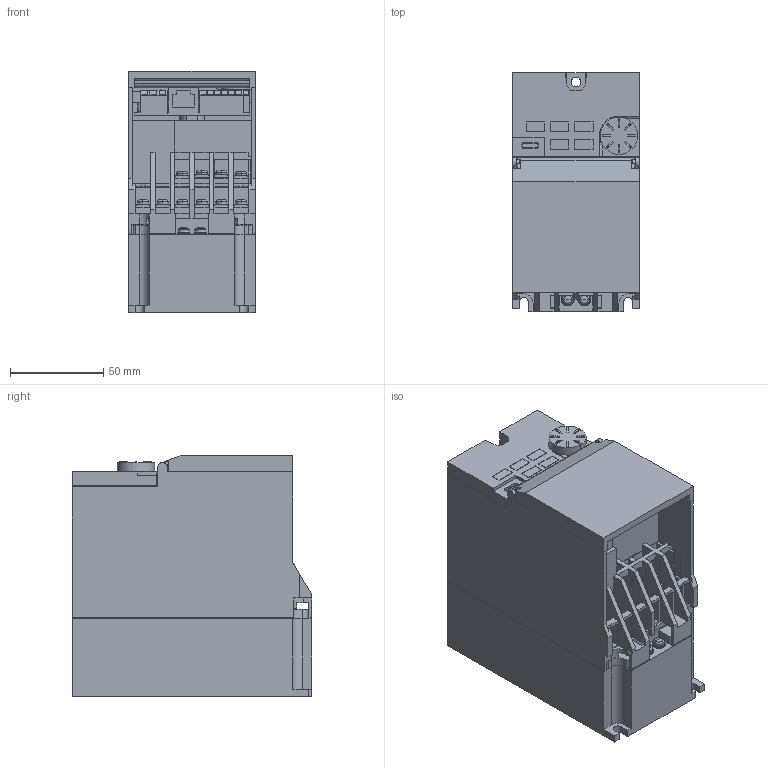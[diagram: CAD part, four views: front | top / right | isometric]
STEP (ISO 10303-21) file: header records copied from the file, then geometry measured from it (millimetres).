
FILE_DESCRIPTION((''),'2;1');
FILE_NAME('3D-INV-52_02_ASM','2024-11-29T10:17:07',('CT89920'),(''),'CREO PARAMETRIC BY PTC INC, 2022281','CREO PARAMETRIC BY PTC INC, 2022281','');
FILE_SCHEMA(('CONFIG_CONTROL_DESIGN','SHAPE_APPEARANCE_LAYERS_GROUPS'));
Length unit declared in the file: millimetre
Products named in the file (7): 3D-BASE-52_02; 3D-TE_SHORT-51_01; 3D-TE_NEJI-M3_5X8-ZA7; 3D-TE-NEJI-51_02_ASM; 3D-SW-PW-P-M3_5X10; 3D-S_COV-D80-0_75; 3D-INV-52_02_ASM
Assembly tree (16 placements, depth 3):
  3D-INV-52_02_ASM
    3D-BASE-52_02
    3D-TE-NEJI-51_02_ASM
      3D-TE_SHORT-51_01
      3D-TE_NEJI-M3_5X8-ZA7  x10
    3D-SW-PW-P-M3_5X10  x2
    3D-S_COV-D80-0_75
Bounding box: 68 x 128 x 129.5 mm (x, y, z)
Volume: 501175.9 mm3; surface area: 156469 mm2
Topology: 15 solids, 15 shells, 915 faces, 2466 edges, 1603 vertices
Faces by surface type: plane 728, cylinder 139, torus 24, extrusion 16, cone 4, sphere 4
Entity records: 30668 total; most frequent: CARTESIAN_POINT 5122, ORIENTED_EDGE 4360, DIRECTION 3972, EDGE_CURVE 2180, VECTOR 1930, LINE 1914, VERTEX_POINT 1422, AXIS2_PLACEMENT_3D 1021
